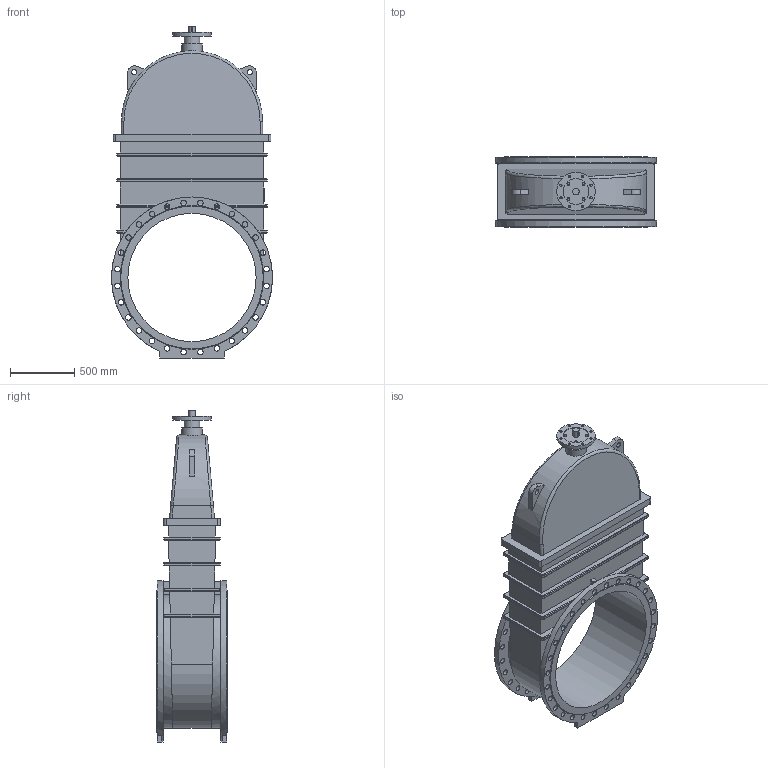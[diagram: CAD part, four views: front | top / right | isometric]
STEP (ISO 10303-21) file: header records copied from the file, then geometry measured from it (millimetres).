
FILE_DESCRIPTION(('STEP AP203'), '1');
FILE_NAME('Çàäâèæêà 47GVA.Z DN1000 PN16 áåç èñïîëíèò. ìåõ.', '', ('UNSPECIFIED'), ('UNSPECIFIED'), 'ASCON STEP Converter 1.6', 'ASCON Math Kernel', '');
FILE_SCHEMA(('CONFIG_CONTROL_DESIGN'));
Length unit declared in the file: millimetre
Bounding box: 1255 x 550 x 2587.5 mm (x, y, z)
Volume: 574703147.1 mm3; surface area: 10515350.7 mm2
Topology: 1 solids, 1 shells, 308 faces, 786 edges, 500 vertices
Faces by surface type: cylinder 157, plane 115, bspline 34, cone 2
Full cylindrical faces by diameter (mm): 18 x8, 20 x4, 40 x2, 43 x56, 50 x1, 120 x1, 160 x1, 200 x1, 300 x1, 1000 x1, 1255 x2
Entity records: 15108 total; most frequent: CARTESIAN_POINT 5333, DIRECTION 1433, ORIENTED_EDGE 1412, EDGE_CURVE 706, AXIS2_PLACEMENT_3D 550, EDGE_LOOP 550, VERTEX_POINT 500, FACE_BOUND 393
